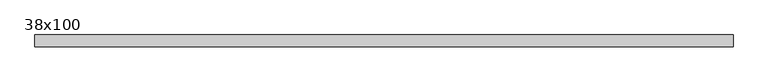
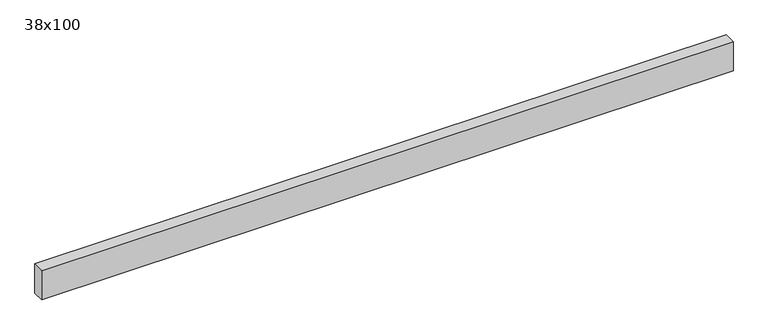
"""IFC4 building model written with IfcOpenShell, lengths in millimetres: beam geometry, Poutre - Bois de construction de dimensions courantes : 38x100."""

from ifc_helpers import new_model, si_unit, frame, origin, place, context, project, spatial, polyline, outline, extrude, source, transform, mapped, element, save


def beam_38x100_e5543971(model_context):
    return source(origin(), model_context, "Body", "SweptSolid", [
        extrude(outline(polyline([(1106.5, 19.05), (1106.5, -19.05), (-1134.5, -19.05), (-1134.5, 19.05), (1106.5, 19.05)])), frame((0.0, 0.0, -50.0), z_axis=(0.0, 0.0, 1.0), x_axis=(1.0, 0.0, 0.0)), (0.0, 0.0, 1.0), 100.0),
    ])


if __name__ == "__main__":
    model = new_model("IFC4")
    model_context = context("Model", 3, world=origin())
    ifc_project = project(units=[si_unit("LENGTHUNIT", "METRE", prefix="MILLI")], contexts=[model_context])
    site = spatial("IfcSite", under=ifc_project)
    building = spatial("IfcBuilding", under=site)
    placement = place(None, origin())
    beam_38x100_shape = beam_38x100_e5543971(model_context)
    element("IfcBeam", 1, ObjectType="Poutre - Bois de construction de dimensions courantes : 38x100", at=placement, inside=building, context=model_context, shape_type="MappedRepresentation", body=[
        mapped(beam_38x100_shape, transform((0.0, 0.0, 0.0), x_axis=(1.0, 0.0, 0.0), y_axis=(0.0, 1.0, 0.0), z_axis=(0.0, 0.0, 1.0))),
    ])
    save(model, "model.ifc")
